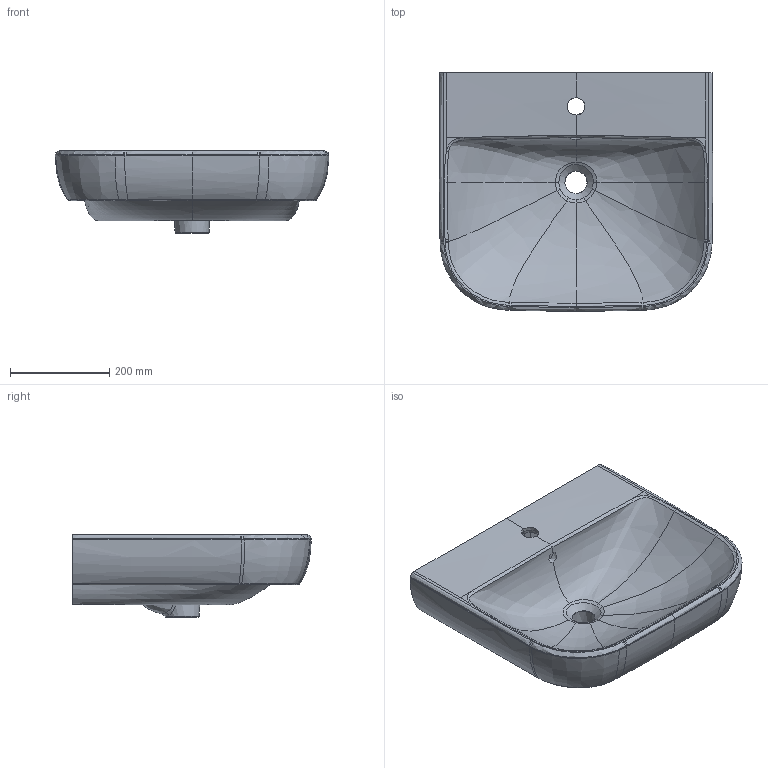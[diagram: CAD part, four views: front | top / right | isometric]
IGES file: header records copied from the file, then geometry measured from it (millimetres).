
Global section: file name: 500227; native system: Autodesk Inventor 2018; preprocessor: unknown; author: JANAN; date: 20200430.091027; units: millimetre
Bounding box: 549.76 x 479.66 x 165 mm (x, y, z)
Volume: 13178353.5 mm3; surface area: 856016 mm2
Topology: 1 solids, 1 shells, 231 faces, 602 edges, 369 vertices
Faces by surface type: bspline 231
